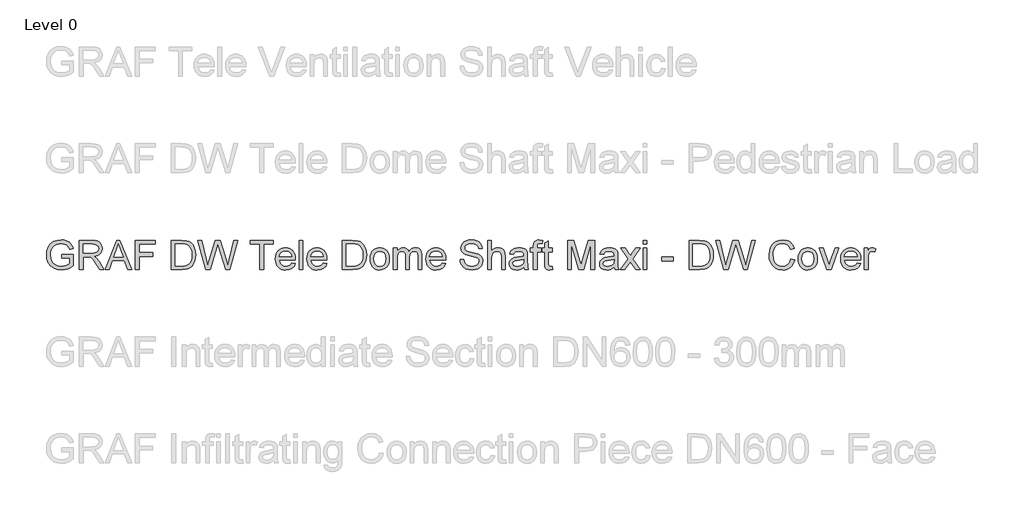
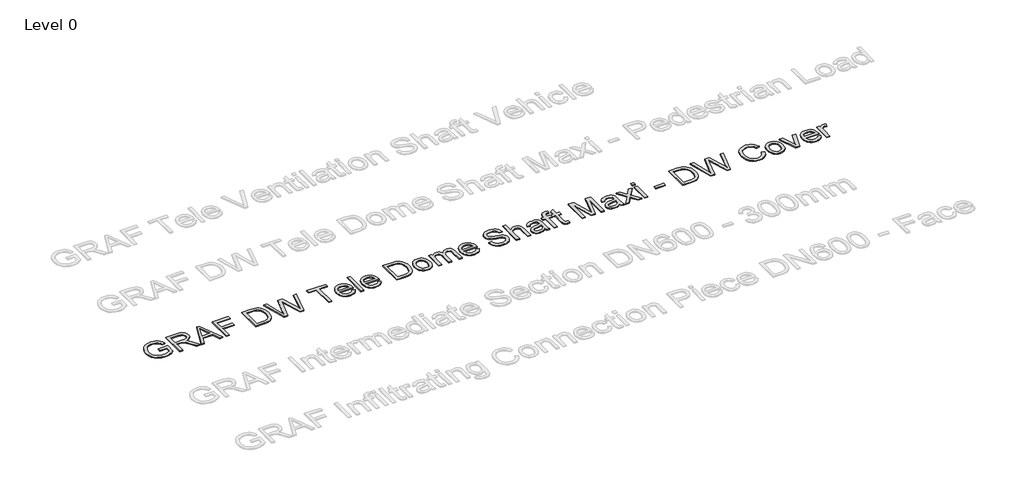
# One storey, part 11 of 25: 1 proxy.
"""IFC4 building model written with IfcOpenShell, lengths in millimetres."""

from ifc_helpers import new_model, si_unit, origin, origin_with_axes, place, context, project, spatial, polyline, outline, extrude, element, save

model = new_model("IFC4")

# Units and contexts
model_context = context("Model", 3, world=origin())
ifc_project = project(units=[si_unit("LENGTHUNIT", "METRE", prefix="MILLI")], contexts=[model_context])

# Site, building, storey
site = spatial("IfcSite", under=ifc_project)
building = spatial("IfcBuilding", under=site)
storey = spatial("IfcBuildingStorey", under=building, Name="Level 0", Elevation=0.0)

# Proxy
placement = place(None, origin())
element("IfcBuildingElementProxy", 1, Name="300mm Arial", ObjectType="300mm Arial", at=placement, inside=storey, context=model_context, shape_type="SweptSolid", body=[
    extrude(outline(polyline([(-15240.9940387, -83.2545597), (-15240.9940387, -45.5834434), (-15118.5629107, -45.5834434), (-15118.5629107, -158.2289103), (-15148.3153671, -178.9222726), (-15179.0059225, -193.7663111), (-15210.5610007, -202.7058436), (-15242.9070251, -205.6856877), (-15285.1674693, -200.949207), (-15323.3628175, -186.739765), (-15355.0926395, -163.5540022), (-15377.9565055, -131.8885595), (-15391.7796715, -93.9047435), (-15396.3873935, -51.7638609), (-15391.7980656, -9.3194757), (-15378.0300819, 30.1634594), (-15355.6536596, 63.282036), (-15325.2390156, 86.6333457), (-15288.1932987, 100.4841028), (-15245.9236575, 105.1010218), (-15214.8928112, 102.4246803), (-15186.9889618, 94.3956557), (-15163.4904994, 81.5933623), (-15145.6758138, 64.5972141), (-15132.4964413, 42.5886738), (-15122.9039183, 14.7492038), (-15157.6319786, 4.9635427), (-15165.3850917, 24.8199734), (-15174.8120678, 39.8019677), (-15187.2832674, 51.0959449), (-15204.169051, 59.8883246), (-15224.3013932, 65.5445103), (-15246.5122687, 67.4299055), (-15272.5123287, 65.3973575), (-15294.7415982, 59.2997134), (-15313.1173039, 49.9003284), (-15327.5566722, 37.9625577), (-15346.9440533, 8.9366683), (-15355.7732212, -19.50061), (-15358.7162772, -50.2187566), (-15355.175413, -86.2436009), (-15344.5528204, -115.8856927), (-15327.1703961, -138.9334997), (-15303.3500369, -155.1754898), (-15275.4737787, -164.804801), (-15245.9236575, -168.0145714), (-15219.831627, -165.5957473), (-15194.3833899, -158.3392749), (-15172.2828791, -148.3420817), (-15156.234027, -137.701095), (-15156.234027, -83.2545597), (-15240.9940387, -83.2545597)])), origin_with_axes(), (0.0, 0.0, 1.0), 10.0),
    extrude(outline(polyline([(-15057.3473467, -200.9767982), (-15057.3473467, 100.3921323), (-14927.4850024, 100.3921323), (-14892.5821982, 98.3595842), (-14867.1891434, 92.2619402), (-14848.6294968, 81.0047511), (-14834.2269167, 63.4935682), (-14824.9838815, 41.7793334), (-14821.9028698, 17.912989), (-14827.0072325, -11.7750881), (-14842.3203206, -36.3863935), (-14853.9200997, -46.4157764), (-14868.3019865, -54.4310054), (-14905.4120827, -64.4190016), (-14884.0013506, -80.532233), (-14853.467145, -119.3069952), (-14803.2144645, -200.9767982), (-14846.9924219, -200.9767982), (-14886.2086426, -138.5104354), (-14914.5355562, -97.1604991), (-14934.4379722, -77.6259652), (-14952.3538253, -70.4522663), (-14974.2060158, -69.1278911), (-15019.6762304, -69.1278911), (-15019.6762304, -200.9767982), (-15057.3473467, -200.9767982)]), holes=[polyline([(-15019.6762304, -31.4567748), (-14935.3576771, -31.4567748), (-14911.1418448, -30.1232026), (-14892.3522719, -26.1224859), (-14878.2072092, -19.1879103), (-14867.9249074, -9.0527613), (-14861.6617165, 3.2069062), (-14859.5739861, 16.5150374), (-14863.5563087, 34.890743), (-14875.5032765, 49.6979933), (-14896.058683, 59.4652603), (-14925.8663217, 62.721016), (-15019.6762304, 62.721016), (-15019.6762304, -31.4567748)])]), origin_with_axes(), (0.0, 0.0, 1.0), 10.0),
    extrude(outline(polyline([(-14791.0743586, -200.9767982), (-14670.7769462, 100.3921323), (-14638.6976362, 100.3921323), (-14518.4002238, -200.9767982), (-14558.2050557, -200.9767982), (-14592.7123868, -106.7990074), (-14716.835772, -106.7990074), (-14751.2695268, -200.9767982), (-14791.0743586, -200.9767982)]), holes=[polyline([(-14703.003409, -69.1278911), (-14606.4711735, -69.1278911), (-14633.6208647, 4.9635427), (-14654.7372912, 62.721016), (-14673.499273, 11.4382658), (-14703.003409, -69.1278911)])]), origin_with_axes(), (0.0, 0.0, 1.0), 10.0),
    extrude(outline(polyline([(-14478.1539335, -200.9767982), (-14478.1539335, 100.3921323), (-14275.6716834, 100.3921323), (-14275.6716834, 62.721016), (-14440.4828172, 62.721016), (-14440.4828172, -26.7478853), (-14299.2161311, -26.7478853), (-14299.2161311, -64.4190016), (-14440.4828172, -64.4190016), (-14440.4828172, -200.9767982), (-14478.1539335, -200.9767982)])), origin_with_axes(), (0.0, 0.0, 1.0), 10.0),
    extrude(outline(polyline([(-14106.15166, -200.9767982), (-14106.15166, 100.3921323), (-14002.1882082, 100.3921323), (-13948.4038605, 96.0511247), (-13924.3811662, 87.6818093), (-13904.1108683, 74.4932398), (-13883.2703532, 51.5374033), (-13868.4263147, 22.9897605), (-13859.5419645, -10.5978657), (-13856.5805145, -48.6736522), (-13858.5854714, -81.0196766), (-13864.600342, -109.484546), (-13873.7606037, -133.7187724), (-13885.2017337, -153.372868), (-13898.3719091, -168.8882911), (-13912.719307, -180.7065002), (-13929.1912233, -189.4712888), (-13948.7349543, -195.8264502), (-13997.185013, -200.9767982), (-14106.15166, -200.9767982)]), holes=[polyline([(-14068.4805437, -163.3056819), (-14001.8203262, -163.3056819), (-13974.2475706, -161.9445185), (-13953.3334792, -157.8610283), (-13937.5513416, -151.2943347), (-13925.3744476, -142.4835609), (-13912.2870456, -126.1771915), (-13902.4553993, -105.069962), (-13896.3025729, -79.069902), (-13894.2516308, -48.085041), (-13898.2707416, -7.0294103), (-13910.328074, 23.2840661), (-13928.1427596, 44.106187), (-13949.4339301, 56.6877512), (-13971.1021796, 61.2126998), (-14002.8503958, 62.721016), (-14068.4805437, 62.721016), (-14068.4805437, -163.3056819)])]), origin_with_axes(), (0.0, 0.0, 1.0), 10.0),
    extrude(outline(polyline([(-13750.8512291, -200.9767982), (-13833.0360668, 100.3921323), (-13794.1877281, 100.3921323), (-13746.5102215, -97.6755339), (-13731.7949417, -158.8175215), (-13716.0495923, -104.7388682), (-13656.3055563, 100.3921323), (-13600.3139166, 100.3921323), (-13556.9038412, -48.3057702), (-13538.3074064, -103.4880695), (-13524.603802, -158.8175215), (-13510.3299806, -99.4413675), (-13462.2110157, 100.3921323), (-13423.362677, 100.3921323), (-13505.6210911, -200.9767982), (-13545.8673814, -200.9767982), (-13618.1194052, 31.5246228), (-13628.1993719, 63.9718147), (-13639.5301373, 24.9027469), (-13705.3810145, -200.9767982), (-13750.8512291, -200.9767982)])), origin_with_axes(), (0.0, 0.0, 1.0), 10.0),
    extrude(outline(polyline([(-13192.6270896, -200.9767982), (-13192.6270896, 62.721016), (-13291.5137699, 62.721016), (-13291.5137699, 100.3921323), (-13056.069293, 100.3921323), (-13056.069293, 62.721016), (-13154.9559733, 62.721016), (-13154.9559733, -200.9767982), (-13192.6270896, -200.9767982)])), origin_with_axes(), (0.0, 0.0, 1.0), 10.0),
    extrude(outline(polyline([(-12863.4462803, -135.0523446), (-12826.510928, -139.7612342), (-12839.8190592, -167.5915071), (-12861.0550473, -188.3952339), (-12889.7406459, -201.3630743), (-12925.3976083, -205.6856877), (-12948.7719106, -203.8209859), (-12969.59863, -198.2268803), (-12987.8777667, -188.9033709), (-13003.6093205, -175.8504579), (-13016.2598626, -159.4314246), (-13025.2959641, -140.0095545), (-13030.717625, -117.5848477), (-13032.5248453, -92.157304), (-13030.6992309, -65.8675369), (-13025.2223877, -42.6955698), (-13016.0943157, -22.6414025), (-13003.3150149, -5.7050351), (-12987.6248478, 7.7502488), (-12969.7641769, 17.361166), (-12949.7330023, 23.1277162), (-12927.5313239, 25.0498997), (-12906.0447161, 23.1323148), (-12886.613649, 17.3795601), (-12869.2381225, 7.7916356), (-12853.9181366, -5.6314587), (-12841.4124481, -22.5310379), (-12832.4798134, -42.548417), (-12827.1202325, -65.6835959), (-12825.3337056, -91.9365748), (-12825.5544348, -102.0901179), (-12994.853729, -102.0901179), (-12988.3330206, -130.2882728), (-12973.1854795, -151.0184232), (-12951.3240919, -163.7655344), (-12924.6618443, -168.0145714), (-12904.6122756, -166.0464027), (-12887.726492, -160.1418967), (-12874.0044936, -149.9331713), (-12863.4462803, -135.0523446)]), holes=[polyline([(-12994.853729, -64.4190016), (-12863.0048219, -64.4190016), (-12868.0999875, -44.5165856), (-12878.0879837, -30.2795524), (-12900.0505388, -17.0358006), (-12927.6784767, -12.6212166), (-12953.0715314, -16.1436868), (-12974.0683963, -26.7110971), (-12988.6641144, -43.1830134), (-12994.853729, -64.4190016)])]), origin_with_axes(), (0.0, 0.0, 1.0), 10.0),
    extrude(outline(polyline([(-12787.6625893, -200.9767982), (-12787.6625893, 100.3921323), (-12749.991473, 100.3921323), (-12749.991473, -200.9767982), (-12787.6625893, -200.9767982)])), origin_with_axes(), (0.0, 0.0, 1.0), 10.0),
    extrude(outline(polyline([(-12538.5329022, -135.0523446), (-12501.5975499, -139.7612342), (-12514.905681, -167.5915071), (-12536.1416692, -188.3952339), (-12564.8272678, -201.3630743), (-12600.4842302, -205.6856877), (-12623.8585324, -203.8209859), (-12644.6852519, -198.2268803), (-12662.9643885, -188.9033709), (-12678.6959423, -175.8504579), (-12691.3464844, -159.4314246), (-12700.3825859, -140.0095545), (-12705.8042468, -117.5848477), (-12707.6114672, -92.157304), (-12705.7858527, -65.8675369), (-12700.3090095, -42.6955698), (-12691.1809375, -22.6414025), (-12678.4016367, -5.7050351), (-12662.7114696, 7.7502488), (-12644.8507988, 17.361166), (-12624.8196241, 23.1277162), (-12602.6179457, 25.0498997), (-12581.1313379, 23.1323148), (-12561.7002708, 17.3795601), (-12544.3247443, 7.7916356), (-12529.0047585, -5.6314587), (-12516.4990699, -22.5310379), (-12507.5664352, -42.548417), (-12502.2068544, -65.6835959), (-12500.4203275, -91.9365748), (-12500.6410567, -102.0901179), (-12669.9403508, -102.0901179), (-12663.4196425, -130.2882728), (-12648.2721013, -151.0184232), (-12626.4107138, -163.7655344), (-12599.7484662, -168.0145714), (-12579.6988974, -166.0464027), (-12562.8131138, -160.1418967), (-12549.0911154, -149.9331713), (-12538.5329022, -135.0523446)]), holes=[polyline([(-12669.9403508, -64.4190016), (-12538.0914438, -64.4190016), (-12543.1866094, -44.5165856), (-12553.1746056, -30.2795524), (-12575.1371607, -17.0358006), (-12602.7650985, -12.6212166), (-12628.1581532, -16.1436868), (-12649.1550181, -26.7110971), (-12663.7507363, -43.1830134), (-12669.9403508, -64.4190016)])]), origin_with_axes(), (0.0, 0.0, 1.0), 10.0),
    extrude(outline(polyline([(-12340.3180832, -200.9767982), (-12340.3180832, 100.3921323), (-12236.3546313, 100.3921323), (-12182.5702836, 96.0511247), (-12158.5475893, 87.6818093), (-12138.2772914, 74.4932398), (-12117.4367764, 51.5374033), (-12102.5927379, 22.9897605), (-12093.7083877, -10.5978657), (-12090.7469376, -48.6736522), (-12092.7518945, -81.0196766), (-12098.7667651, -109.484546), (-12107.9270268, -133.7187724), (-12119.3681569, -153.372868), (-12132.5383323, -168.8882911), (-12146.8857301, -180.7065002), (-12163.3576464, -189.4712888), (-12182.9013774, -195.8264502), (-12231.3514362, -200.9767982), (-12340.3180832, -200.9767982)]), holes=[polyline([(-12302.6469669, -163.3056819), (-12235.9867493, -163.3056819), (-12208.4139938, -161.9445185), (-12187.4999024, -157.8610283), (-12171.7177648, -151.2943347), (-12159.5408707, -142.4835609), (-12146.4534688, -126.1771915), (-12136.6218224, -105.069962), (-12130.4689961, -79.069902), (-12128.4180539, -48.085041), (-12132.4371647, -7.0294103), (-12144.4944971, 23.2840661), (-12162.3091827, 44.106187), (-12183.6003532, 56.6877512), (-12205.2686027, 61.2126998), (-12237.0168189, 62.721016), (-12302.6469669, 62.721016), (-12302.6469669, -163.3056819)])]), origin_with_axes(), (0.0, 0.0, 1.0), 10.0),
    extrude(outline(polyline([(-12053.0758213, -90.317894), (-12051.0386748, -61.6552881), (-12044.9272351, -36.9566106), (-12034.7415024, -16.2218617), (-12020.4814766, 0.5489588), (-12006.1248817, 11.2681204), (-11990.2783648, 18.9246644), (-11972.9419257, 23.5185909), (-11954.1155646, 25.0498997), (-11933.3325312, 23.1851978), (-11914.540659, 17.5910922), (-11897.7399481, 8.2675829), (-11882.9303986, -4.7853302), (-11870.8431758, -21.1261885), (-11862.2094452, -40.3135338), (-11857.0292068, -62.3473661), (-11855.3024607, -87.2276853), (-11858.3558813, -125.2850777), (-11867.516143, -154.2557848), (-11882.5165313, -175.9516255), (-11903.0903319, -192.1844185), (-11927.5268934, -202.3103704), (-11954.1155646, -205.6856877), (-11975.2021007, -203.8278836), (-11994.1687169, -198.2544714), (-12011.015413, -188.965451), (-12025.7421891, -175.9608225), (-12037.7006532, -159.461315), (-12046.2424133, -139.6876578), (-12051.3674693, -116.6398508), (-12053.0758213, -90.317894)]), holes=[polyline([(-12015.404705, -90.2443176), (-12011.0453034, -124.3377815), (-11997.9670985, -148.6271903), (-11978.2854117, -163.1677261), (-11954.1155646, -168.0145714), (-11930.0560821, -163.140135), (-11910.4111836, -148.5168257), (-11897.3329787, -123.9055202), (-11892.973577, -89.0670952), (-11897.3605698, -55.9669127), (-11910.5215482, -32.0085978), (-11930.1940379, -17.4680619), (-11954.1155646, -12.6212166), (-11978.2854117, -17.4496678), (-11997.9670985, -31.9350214), (-12011.0453034, -56.1692478), (-12015.404705, -90.2443176)])]), origin_with_axes(), (0.0, 0.0, 1.0), 10.0),
    extrude(outline(polyline([(-11812.9224549, -200.9767982), (-11812.9224549, 20.3410101), (-11775.2513386, 20.3410101), (-11775.2513386, -16.0793074), (-11763.9205731, 0.6501263), (-11749.3524461, 13.7559224), (-11732.0435982, 22.2264053), (-11712.4906702, 25.0498997), (-11691.5397906, 22.171223), (-11674.7459775, 13.5351932), (-11662.2012015, -0.2879728), (-11653.997433, -18.7280578), (-11640.2662375, 0.4247986), (-11624.6036615, 14.1054103), (-11607.0097051, 22.3137773), (-11587.4843682, 25.0498997), (-11559.1666517, 20.49736), (-11538.2249691, 6.8397409), (-11525.2847199, -16.2908395), (-11520.9713035, -49.2622634), (-11520.9713035, -200.9767982), (-11558.6424198, -200.9767982), (-11558.6424198, -65.4490712), (-11562.1372988, -33.9951606), (-11567.0485234, -25.3223425), (-11574.7924394, -18.5073286), (-11584.7528444, -14.0927446), (-11596.3135361, -12.6212166), (-11616.7217898, -16.3920071), (-11633.359253, -27.7043784), (-11644.423304, -47.3308829), (-11648.111321, -76.0440726), (-11648.111321, -200.9767982), (-11685.7824373, -200.9767982), (-11685.7824373, -61.2552164), (-11687.9621382, -39.9548489), (-11694.5012406, -24.7613225), (-11706.00675, -15.6562431), (-11723.0856717, -12.6212166), (-11737.5986164, -14.6445676), (-11750.9711269, -20.7146205), (-11762.0075867, -30.6842226), (-11769.5123794, -44.406221), (-11773.8165988, -63.4441143), (-11775.2513386, -89.3614008), (-11775.2513386, -200.9767982), (-11812.9224549, -200.9767982)])), origin_with_axes(), (0.0, 0.0, 1.0), 10.0),
    extrude(outline(polyline([(-11309.5127327, -135.0523446), (-11272.5773804, -139.7612342), (-11285.8855115, -167.5915071), (-11307.1214997, -188.3952339), (-11335.8070983, -201.3630743), (-11371.4640607, -205.6856877), (-11394.8383629, -203.8209859), (-11415.6650824, -198.2268803), (-11433.944219, -188.9033709), (-11449.6757728, -175.8504579), (-11462.326315, -159.4314246), (-11471.3624165, -140.0095545), (-11476.7840774, -117.5848477), (-11478.5912977, -92.157304), (-11476.7656833, -65.8675369), (-11471.2888401, -42.6955698), (-11462.1607681, -22.6414025), (-11449.3814672, -5.7050351), (-11433.6913002, 7.7502488), (-11415.8306293, 17.361166), (-11395.7994546, 23.1277162), (-11373.5977762, 25.0498997), (-11352.1111685, 23.1323148), (-11332.6801013, 17.3795601), (-11315.3045748, 7.7916356), (-11299.984589, -5.6314587), (-11287.4789004, -22.5310379), (-11278.5462657, -42.548417), (-11273.1866849, -65.6835959), (-11271.400158, -91.9365748), (-11271.6208872, -102.0901179), (-11440.9201814, -102.0901179), (-11434.399473, -130.2882728), (-11419.2519318, -151.0184232), (-11397.3905443, -163.7655344), (-11370.7282967, -168.0145714), (-11350.6787279, -166.0464027), (-11333.7929444, -160.1418967), (-11320.0709459, -149.9331713), (-11309.5127327, -135.0523446)]), holes=[polyline([(-11440.9201814, -64.4190016), (-11309.0712743, -64.4190016), (-11314.1664399, -44.5165856), (-11324.1544361, -30.2795524), (-11346.1169912, -17.0358006), (-11373.744929, -12.6212166), (-11399.1379838, -16.1436868), (-11420.1348486, -26.7110971), (-11434.7305668, -43.1830134), (-11440.9201814, -64.4190016)])]), origin_with_axes(), (0.0, 0.0, 1.0), 10.0),
    extrude(outline(polyline([(-11125.4245823, -97.3812283), (-11087.753466, -97.3812283), (-11083.4308525, -118.2861227), (-11075.6133601, -135.0891328), (-11063.418072, -148.4248552), (-11045.9620713, -158.9278861), (-11024.6249156, -165.7429001), (-11000.7861623, -168.0145714), (-10979.7984945, -166.2947231), (-10961.4227888, -161.1351781), (-10946.5327651, -152.9681978), (-10936.002143, -142.2260435), (-10929.738952, -129.8927997), (-10927.6512217, -116.9525505), (-10929.2147202, -104.3433951), (-10933.9052156, -93.444891), (-10943.4333593, -84.1466736), (-10959.5098025, -76.3383782), (-11014.361008, -61.9541922), (-11050.3674582, -52.4352456), (-11073.4060682, -43.3761514), (-11092.1588529, -30.7026167), (-11105.44859, -15.3435434), (-11113.3672499, 2.3699747), (-11116.0068032, 22.1068437), (-11112.7418505, 44.1705664), (-11102.9469924, 64.7443669), (-11086.8797462, 82.1819735), (-11064.7976295, 94.8371141), (-11038.2917317, 102.5350449), (-11008.9531426, 105.1010218), (-10977.1681382, 102.4154832), (-10949.3562594, 94.3588675), (-10926.5107875, 81.0967216), (-10909.6250039, 62.7945924), (-10898.938032, 40.592914), (-10894.6889949, 15.6321206), (-10932.3601112, 15.6321206), (-10939.2762927, 38.1097105), (-10953.6972669, 54.3333065), (-10976.2300392, 64.1557557), (-11007.4816146, 67.4299055), (-11039.4689541, 64.1925439), (-11061.4131151, 54.4804593), (-11074.105044, 40.1882438), (-11078.3356869, 23.2104897), (-11075.3374487, 8.7343332), (-11066.3427339, -2.909132), (-11045.0791545, -13.3201924), (-11004.8328643, -23.9519821), (-10963.298987, -34.0503429), (-10938.1726467, -42.8611167), (-10916.6975353, -56.5279328), (-10901.715541, -73.3953223), (-10892.9139643, -93.2793441), (-10889.9801054, -115.9960573), (-10893.3554227, -139.2186082), (-10903.4813746, -161.0616017), (-10919.9440939, -179.8603717), (-10942.3297133, -193.9502521), (-10969.2494783, -202.7518288), (-10999.3146343, -205.6856877), (-11036.2223955, -202.5219026), (-11066.6002513, -193.0305471), (-11090.7976895, -177.1748331), (-11109.1641981, -154.9179724), (-11120.9548161, -127.8050693), (-11125.4245823, -97.3812283)])), origin_with_axes(), (0.0, 0.0, 1.0), 10.0),
    extrude(outline(polyline([(-10838.1823205, -200.9767982), (-10838.1823205, 100.3921323), (-10800.5112042, 100.3921323), (-10800.5112042, -10.4139247), (-10786.6742426, 5.1014985), (-10771.1358268, 16.1839436), (-10753.8959568, 22.8334106), (-10734.9546326, 25.0498997), (-10712.2011312, 22.6310755), (-10692.6482032, 15.3746032), (-10677.2523417, 3.8506997), (-10666.9700399, -11.3704179), (-10661.1758985, -32.2845093), (-10659.244518, -60.8873344), (-10659.244518, -200.9767982), (-10696.9156343, -200.9767982), (-10696.9156343, -64.7868836), (-10699.9138726, -41.2056477), (-10708.9085874, -25.0556281), (-10723.403138, -15.7298195), (-10742.9008837, -12.6212166), (-10758.8209771, -14.718144), (-10773.7661831, -21.0089261), (-10786.1454122, -30.8865577), (-10794.3675748, -43.7440334), (-10798.9752968, -60.8321521), (-10800.5112042, -83.4017125), (-10800.5112042, -200.9767982), (-10838.1823205, -200.9767982)])), origin_with_axes(), (0.0, 0.0, 1.0), 10.0),
    extrude(outline(polyline([(-10466.1800469, -172.7234609), (-10484.1786736, -188.1561106), (-10502.7107291, -198.2544714), (-10522.1992778, -203.8278836), (-10543.0673839, -205.6856877), (-10574.5488857, -201.2159215), (-10597.7714366, -187.8066228), (-10612.0912433, -167.4443543), (-10616.8645122, -142.1156789), (-10615.0618904, -126.4990883), (-10609.6540251, -112.3172373), (-10601.3123008, -100.1771315), (-10590.7081023, -90.685776), (-10564.3309633, -78.324941), (-10531.7366185, -72.6595583), (-10493.2193736, -66.6998699), (-10466.4007761, -59.710112), (-10466.1800469, -51.3224025), (-10468.773615, -34.5101954), (-10476.5543192, -23.5105237), (-10493.9551376, -15.3435434), (-10518.1985611, -12.6212166), (-10540.6393628, -14.4330355), (-10556.3111358, -19.868492), (-10566.9981077, -29.9208675), (-10574.4845063, -45.5834434), (-10612.1556226, -40.8745539), (-10605.6165202, -20.2731621), (-10595.8584502, -4.0863544), (-10581.9709049, 8.2928748), (-10563.0433763, 17.4715306), (-10539.8944017, 23.1553074), (-10513.3425187, 25.0498997), (-10487.8758876, 23.3760366), (-10467.6883631, 18.3544473), (-10452.4672456, 10.8036694), (-10441.8998353, 1.5422402), (-10434.8916832, -9.9080869), (-10430.3483406, -24.0255585), (-10428.5089306, -56.9877853), (-10428.5089306, -103.8559515), (-10426.5959443, -169.3021584), (-10419.0911516, -200.9767982), (-10456.7622679, -200.9767982), (-10466.1800469, -172.7234609)]), holes=[polyline([(-10466.1800469, -97.3812283), (-10526.9541525, -108.932723), (-10559.3645563, -115.0395641), (-10574.0430479, -124.972378), (-10579.1933959, -139.4669286), (-10576.3882956, -150.6689353), (-10567.972995, -159.8475911), (-10554.1314349, -165.9728263), (-10535.0475564, -168.0145714), (-10514.8140467, -165.7612942), (-10496.9349817, -159.0014625), (-10482.4404311, -149.0410575), (-10472.3604645, -137.1860602), (-10467.8906982, -124.972378), (-10466.4007761, -108.0498062), (-10466.1800469, -97.3812283)])]), origin_with_axes(), (0.0, 0.0, 1.0), 10.0),
    extrude(outline(polyline([(-10367.2933666, -200.9767982), (-10367.2933666, -17.3301062), (-10400.2555934, -17.3301062), (-10400.2555934, 20.3410101), (-10367.2933666, 20.3410101), (-10367.2933666, 42.634659), (-10363.3202411, 74.0517814), (-10355.741872, 86.5781634), (-10344.0432245, 96.4925831), (-10327.6724758, 102.9489121), (-10306.0778026, 105.1010218), (-10271.7176243, 100.9807435), (-10277.2358542, 65.6640719), (-10298.9408919, 67.4299055), (-10313.2606986, 65.866407), (-10322.6692806, 61.1759116), (-10327.8840079, 52.217985), (-10329.6222503, 37.8521931), (-10329.6222503, 20.3410101), (-10287.2422445, 20.3410101), (-10287.2422445, -17.3301062), (-10329.6222503, -17.3301062), (-10329.6222503, -200.9767982), (-10367.2933666, -200.9767982)])), origin_with_axes(), (0.0, 0.0, 1.0), 10.0),
    extrude(outline(polyline([(-10174.2288956, -169.5596758), (-10169.520006, -202.0804442), (-10197.6997669, -205.6856877), (-10215.7811669, -204.1221892), (-10229.264042, -199.4316938), (-10238.7921857, -192.2028126), (-10245.0093914, -183.0241568), (-10248.430694, -167.2604133), (-10249.5711282, -140.276269), (-10249.5711282, -17.3301062), (-10277.8244654, -17.3301062), (-10277.8244654, 20.3410101), (-10249.5711282, 20.3410101), (-10249.5711282, 74.1253578), (-10211.9000119, 96.2718539), (-10211.9000119, 20.3410101), (-10174.2288956, 20.3410101), (-10174.2288956, -17.3301062), (-10211.9000119, -17.3301062), (-10211.9000119, -139.172623), (-10209.9134491, -158.5967923), (-10203.4755142, -165.4761856), (-10190.6364325, -168.0145714), (-10174.2288956, -169.5596758)])), origin_with_axes(), (0.0, 0.0, 1.0), 10.0),
    extrude(outline(polyline([(-10014.1266513, -200.9767982), (-10014.1266513, 100.3921323), (-9949.3058437, 100.3921323), (-9887.6488213, -112.0229317), (-9875.2144099, -156.3895004), (-9861.7499289, -108.3441118), (-9801.1229761, 100.3921323), (-9736.3021685, 100.3921323), (-9736.3021685, -200.9767982), (-9773.9732848, -200.9767982), (-9773.9732848, 62.721016), (-9849.6833994, -200.9767982), (-9900.7454204, -200.9767982), (-9976.455535, 62.721016), (-9976.455535, -200.9767982), (-10014.1266513, -200.9767982)])), origin_with_axes(), (0.0, 0.0, 1.0), 10.0),
    extrude(outline(polyline([(-9533.8199184, -172.7234609), (-9551.818545, -188.1561106), (-9570.3506005, -198.2544714), (-9589.8391492, -203.8278836), (-9610.7072554, -205.6856877), (-9642.1887571, -201.2159215), (-9665.411308, -187.8066228), (-9679.7311147, -167.4443543), (-9684.5043836, -142.1156789), (-9682.7017618, -126.4990883), (-9677.2938965, -112.3172373), (-9668.9521722, -100.1771315), (-9658.3479737, -90.685776), (-9631.9708347, -78.324941), (-9599.3764899, -72.6595583), (-9560.859245, -66.6998699), (-9534.0406476, -59.710112), (-9533.8199184, -51.3224025), (-9536.4134864, -34.5101954), (-9544.1941906, -23.5105237), (-9561.595009, -15.3435434), (-9585.8384325, -12.6212166), (-9608.2792342, -14.4330355), (-9623.9510072, -19.868492), (-9634.6379791, -29.9208675), (-9642.1243777, -45.5834434), (-9679.795494, -40.8745539), (-9673.2563916, -20.2731621), (-9663.4983217, -4.0863544), (-9649.6107763, 8.2928748), (-9630.6832477, 17.4715306), (-9607.5342731, 23.1553074), (-9580.9823901, 25.0498997), (-9555.515759, 23.3760366), (-9535.3282345, 18.3544473), (-9520.107117, 10.8036694), (-9509.5397067, 1.5422402), (-9502.5315547, -9.9080869), (-9497.988212, -24.0255585), (-9496.1488021, -56.9877853), (-9496.1488021, -103.8559515), (-9494.2358157, -169.3021584), (-9486.731023, -200.9767982), (-9524.4021393, -200.9767982), (-9533.8199184, -172.7234609)]), holes=[polyline([(-9533.8199184, -97.3812283), (-9594.594024, -108.932723), (-9627.0044277, -115.0395641), (-9641.6829193, -124.972378), (-9646.8332673, -139.4669286), (-9644.0281671, -150.6689353), (-9635.6128664, -159.8475911), (-9621.7713064, -165.9728263), (-9602.6874279, -168.0145714), (-9582.4539181, -165.7612942), (-9564.5748532, -159.0014625), (-9550.0803025, -149.0410575), (-9540.0003359, -137.1860602), (-9535.5305696, -124.972378), (-9534.0406476, -108.0498062), (-9533.8199184, -97.3812283)])]), origin_with_axes(), (0.0, 0.0, 1.0), 10.0),
    extrude(outline(polyline([(-9467.8954648, -200.9767982), (-9387.4028843, -89.7292828), (-9463.1865753, 20.3410101), (-9417.8635135, 20.3410101), (-9381.2960432, -32.6339972), (-9364.2263186, -57.6499729), (-9349.4374624, -37.1957339), (-9307.7932205, 20.3410101), (-9262.4701587, 20.3410101), (-9342.0798225, -89.7292828), (-9265.4132147, -200.9767982), (-9310.7362765, -200.9767982), (-9356.8686787, -134.0958515), (-9365.3299646, -121.8821692), (-9422.572403, -200.9767982), (-9467.8954648, -200.9767982)])), origin_with_axes(), (0.0, 0.0, 1.0), 10.0),
    extrude(outline(polyline([(-9232.4509879, -200.9767982), (-9232.4509879, 20.3410101), (-9194.7798716, 20.3410101), (-9194.7798716, -200.9767982), (-9232.4509879, -200.9767982)])), origin_with_axes(), (0.0, 0.0, 1.0), 10.0),
    extrude(outline(polyline([(-9232.4509879, 62.721016), (-9232.4509879, 100.3921323), (-9194.7798716, 100.3921323), (-9194.7798716, 62.721016), (-9232.4509879, 62.721016)])), origin_with_axes(), (0.0, 0.0, 1.0), 10.0),
    extrude(outline(polyline([(-9039.3865168, -111.507897), (-9039.3865168, -73.8367806), (-8921.6642784, -73.8367806), (-8921.6642784, -111.507897), (-9039.3865168, -111.507897)])), origin_with_axes(), (0.0, 0.0, 1.0), 10.0),
    extrude(outline(polyline([(-8756.8531445, -200.9767982), (-8756.8531445, 100.3921323), (-8652.8896927, 100.3921323), (-8599.105345, 96.0511247), (-8575.0826507, 87.6818093), (-8554.8123528, 74.4932398), (-8533.9718378, 51.5374033), (-8519.1277993, 22.9897605), (-8510.2434491, -10.5978657), (-8507.281999, -48.6736522), (-8509.2869559, -81.0196766), (-8515.3018265, -109.484546), (-8524.4620882, -133.7187724), (-8535.9032182, -153.372868), (-8549.0733937, -168.8882911), (-8563.4207915, -180.7065002), (-8579.8927078, -189.4712888), (-8599.4364388, -195.8264502), (-8647.8864976, -200.9767982), (-8756.8531445, -200.9767982)]), holes=[polyline([(-8719.1820282, -163.3056819), (-8652.5218107, -163.3056819), (-8624.9490552, -161.9445185), (-8604.0349638, -157.8610283), (-8588.2528262, -151.2943347), (-8576.0759321, -142.4835609), (-8562.9885301, -126.1771915), (-8553.1568838, -105.069962), (-8547.0040574, -79.069902), (-8544.9531153, -48.085041), (-8548.9722261, -7.0294103), (-8561.0295585, 23.2840661), (-8578.8442441, 44.106187), (-8600.1354146, 56.6877512), (-8621.8036641, 61.2126998), (-8653.5518803, 62.721016), (-8719.1820282, 62.721016), (-8719.1820282, -163.3056819)])]), origin_with_axes(), (0.0, 0.0, 1.0), 10.0),
    extrude(outline(polyline([(-8401.5527136, -200.9767982), (-8483.7375513, 100.3921323), (-8444.8892126, 100.3921323), (-8397.2117061, -97.6755339), (-8382.4964263, -158.8175215), (-8366.7510769, -104.7388682), (-8307.0070408, 100.3921323), (-8251.0154012, 100.3921323), (-8207.6053257, -48.3057702), (-8189.0088909, -103.4880695), (-8175.3052866, -158.8175215), (-8161.0314652, -99.4413675), (-8112.9125002, 100.3921323), (-8074.0641615, 100.3921323), (-8156.3225756, -200.9767982), (-8196.5688659, -200.9767982), (-8268.8208897, 31.5246228), (-8278.9008564, 63.9718147), (-8290.2316219, 24.9027469), (-8356.082499, -200.9767982), (-8401.5527136, -200.9767982)])), origin_with_axes(), (0.0, 0.0, 1.0), 10.0),
    extrude(outline(polyline([(-7706.7707775, -93.8495612), (-7669.0996612, -103.5616459), (-7676.5538701, -126.9888312), (-7686.4820855, -147.4591649), (-7698.8843072, -164.9726472), (-7713.7605354, -179.5292779), (-7730.7750777, -190.9727072), (-7749.5922418, -199.1465853), (-7770.2120276, -204.0509121), (-7792.6344352, -205.6856877), (-7836.3296192, -200.7376749), (-7871.0300884, -185.8936364), (-7897.6279566, -161.668607), (-7917.0153378, -128.5776215), (-7928.851941, -89.6741005), (-7932.7974754, -48.0114646), (-7928.3369062, -4.0679603), (-7914.9551986, 33.8790675), (-7893.3513284, 64.6248053), (-7864.2242715, 86.9644394), (-7829.6801521, 100.5668762), (-7791.8250948, 105.1010218), (-7750.5211438, 99.233304), (-7732.5524076, 91.8986567), (-7716.3724976, 81.6301505), (-7702.2481282, 68.6990984), (-7690.446014, 53.3768133), (-7673.8085507, 15.5585442), (-7711.4796671, 6.5822235), (-7724.5394779, 34.0538115), (-7742.3817546, 52.8985667), (-7765.2272265, 63.7970708), (-7793.2966228, 67.4299055), (-7825.6518443, 63.4015977), (-7852.2313184, 51.3166741), (-7872.4004488, 32.4443278), (-7885.524639, 8.0537515), (-7892.725929, -19.5190041), (-7895.126359, -47.9378882), (-7892.2844706, -82.7395249), (-7883.7588054, -112.8322721), (-7869.2274666, -137.0664986), (-7848.3685575, -154.292573), (-7823.3617788, -164.5840718), (-7796.3868315, -168.0145714), (-7764.942118, -163.3424701), (-7738.7397229, -149.3261661), (-7718.9568686, -126.1128122), (-7706.7707775, -93.8495612)])), origin_with_axes(), (0.0, 0.0, 1.0), 10.0),
    extrude(outline(polyline([(-7631.4285449, -90.317894), (-7629.3913984, -61.6552881), (-7623.2799587, -36.9566106), (-7613.094226, -16.2218617), (-7598.8342001, 0.5489588), (-7584.4776053, 11.2681204), (-7568.6310883, 18.9246644), (-7551.2946493, 23.5185909), (-7532.4682882, 25.0498997), (-7511.6852547, 23.1851978), (-7492.8933826, 17.5910922), (-7476.0926717, 8.2675829), (-7461.2831221, -4.7853302), (-7449.1958993, -21.1261885), (-7440.5621688, -40.3135338), (-7435.3819304, -62.3473661), (-7433.6551843, -87.2276853), (-7436.7086049, -125.2850777), (-7445.8688665, -154.2557848), (-7460.8692549, -175.9516255), (-7481.4430555, -192.1844185), (-7505.879617, -202.3103704), (-7532.4682882, -205.6856877), (-7553.5548243, -203.8278836), (-7572.5214404, -198.2544714), (-7589.3681365, -188.965451), (-7604.0949127, -175.9608225), (-7616.0533768, -159.461315), (-7624.5951368, -139.6876578), (-7629.7201929, -116.6398508), (-7631.4285449, -90.317894)]), holes=[polyline([(-7593.7574286, -90.2443176), (-7589.398027, -124.3377815), (-7576.319822, -148.6271903), (-7556.6381353, -163.1677261), (-7532.4682882, -168.0145714), (-7508.4088057, -163.140135), (-7488.7639072, -148.5168257), (-7475.6857022, -123.9055202), (-7471.3263006, -89.0670952), (-7475.7132934, -55.9669127), (-7488.8742718, -32.0085978), (-7508.5467615, -17.4680619), (-7532.4682882, -12.6212166), (-7556.6381353, -17.4496678), (-7576.319822, -31.9350214), (-7589.398027, -56.1692478), (-7593.7574286, -90.2443176)])]), origin_with_axes(), (0.0, 0.0, 1.0), 10.0),
    extrude(outline(polyline([(-7336.975796, -200.9767982), (-7414.8196261, 20.3410101), (-7374.9412179, 20.3410101), (-7327.7787461, -112.2436609), (-7313.5785011, -156.8309588), (-7299.6725617, -114.7452585), (-7252.2157843, 20.3410101), (-7212.337376, 20.3410101), (-7289.224713, -200.9767982), (-7336.975796, -200.9767982)])), origin_with_axes(), (0.0, 0.0, 1.0), 10.0),
    extrude(outline(polyline([(-7024.4232529, -135.0523446), (-6987.4879005, -139.7612342), (-7000.7960317, -167.5915071), (-7022.0320199, -188.3952339), (-7050.7176185, -201.3630743), (-7086.3745808, -205.6856877), (-7109.7488831, -203.8209859), (-7130.5756026, -198.2268803), (-7148.8547392, -188.9033709), (-7164.586293, -175.8504579), (-7177.2368351, -159.4314246), (-7186.2729366, -140.0095545), (-7191.6945975, -117.5848477), (-7193.5018178, -92.157304), (-7191.6762034, -65.8675369), (-7186.1993602, -42.6955698), (-7177.0712882, -22.6414025), (-7164.2919874, -5.7050351), (-7148.6018203, 7.7502488), (-7130.7411495, 17.361166), (-7110.7099748, 23.1277162), (-7088.5082964, 25.0498997), (-7067.0216886, 23.1323148), (-7047.5906215, 17.3795601), (-7030.215095, 7.7916356), (-7014.8951092, -5.6314587), (-7002.3894206, -22.5310379), (-6993.4567859, -42.548417), (-6988.0972051, -65.6835959), (-6986.3106782, -91.9365748), (-6986.5314074, -102.0901179), (-7155.8307015, -102.0901179), (-7149.3099932, -130.2882728), (-7134.162452, -151.0184232), (-7112.3010645, -163.7655344), (-7085.6388169, -168.0145714), (-7065.5892481, -166.0464027), (-7048.7034645, -160.1418967), (-7034.9814661, -149.9331713), (-7024.4232529, -135.0523446)]), holes=[polyline([(-7155.8307015, -64.4190016), (-7023.9817945, -64.4190016), (-7029.0769601, -44.5165856), (-7039.0649563, -30.2795524), (-7061.0275114, -17.0358006), (-7088.6554492, -12.6212166), (-7114.0485039, -16.1436868), (-7135.0453688, -26.7110971), (-7149.641087, -43.1830134), (-7155.8307015, -64.4190016)])]), origin_with_axes(), (0.0, 0.0, 1.0), 10.0),
    extrude(outline(polyline([(-6948.6395619, -200.9767982), (-6948.6395619, 20.3410101), (-6915.6773351, 20.3410101), (-6915.6773351, -12.4004875), (-6903.500441, 6.5822235), (-6892.2800402, 17.7658362), (-6881.0228511, 23.2288838), (-6868.7355925, 25.0498997), (-6849.9736107, 22.1436319), (-6830.9173234, 13.4248286), (-6843.4988876, -20.3467385), (-6856.7426395, -14.5525971), (-6869.9863913, -12.6212166), (-6881.2343833, -14.4790207), (-6891.2867588, -20.052433), (-6899.4077539, -28.918389), (-6904.8616044, -40.6538247), (-6909.4417353, -61.6966748), (-6910.9684455, -84.6525113), (-6910.9684455, -200.9767982), (-6948.6395619, -200.9767982)])), origin_with_axes(), (0.0, 0.0, 1.0), 10.0),
])

save(model, "model.ifc")
